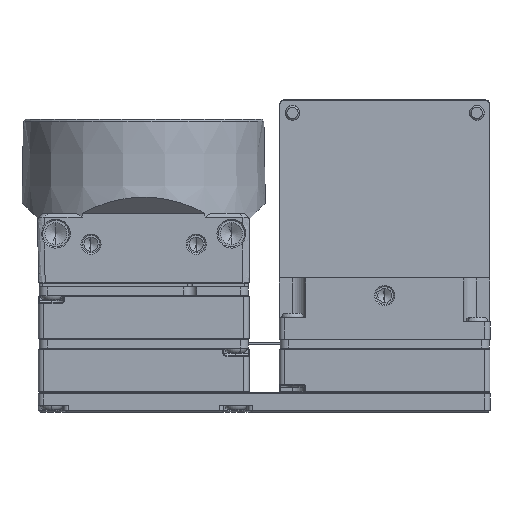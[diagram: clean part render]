
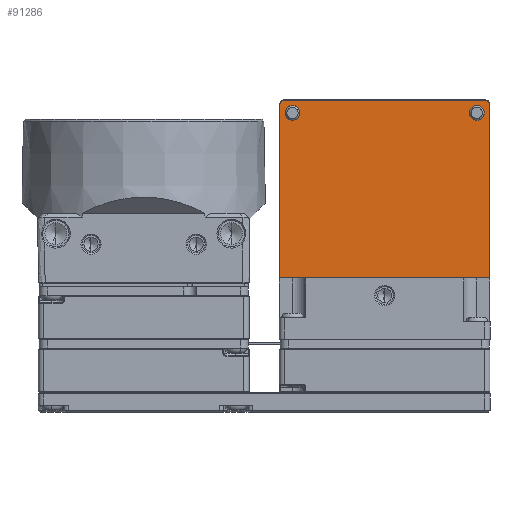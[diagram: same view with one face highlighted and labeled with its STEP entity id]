
A CAD part, front view. The second image highlights one B-rep face of the part: STEP entity #91286.
In plain terms, the highlighted planar face has unit normal (0, -1, 0).
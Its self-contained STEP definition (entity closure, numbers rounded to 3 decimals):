
#387 = CARTESIAN_POINT ( 'NONE',  ( 27.45, 6.5, -2.85 ) ) ;
#950 = DIRECTION ( 'NONE',  ( 0., 0., -1. ) ) ;
#1202 = VECTOR ( 'NONE', #5730, 1000. ) ;
#1226 = PLANE ( 'NONE',  #139584 ) ;
#2574 = CARTESIAN_POINT ( 'NONE',  ( 39.45, 6.5, -3.15 ) ) ;
#3021 = CIRCLE ( 'NONE', #32442, 0.85 ) ;
#3261 = CARTESIAN_POINT ( 'NONE',  ( 27.45, 6.5, 0.65 ) ) ;
#4676 = EDGE_CURVE ( 'NONE', #161116, #8759, #35718, .T. ) ;
#4730 = EDGE_CURVE ( 'NONE', #90554, #75104, #38734, .T. ) ;
#5730 = DIRECTION ( 'NONE',  ( 0., 0., 1. ) ) ;
#7522 = EDGE_CURVE ( 'NONE', #49840, #75104, #33430, .T. ) ;
#8759 = VERTEX_POINT ( 'NONE', #132450 ) ;
#10032 = ORIENTED_EDGE ( 'NONE', *, *, #4676, .F. ) ;
#11232 = ORIENTED_EDGE ( 'NONE', *, *, #4730, .T. ) ;
#12041 = EDGE_CURVE ( 'NONE', #49840, #57068, #54432, .T. ) ;
#14108 = EDGE_CURVE ( 'NONE', #48152, #16213, #70190, .T. ) ;
#16213 = VERTEX_POINT ( 'NONE', #102401 ) ;
#18915 = CARTESIAN_POINT ( 'NONE',  ( 16.05, 6.5, 20.25 ) ) ;
#20695 = CARTESIAN_POINT ( 'NONE',  ( 15.45, 6.5, 0.65 ) ) ;
#24830 = CARTESIAN_POINT ( 'NONE',  ( 16.95, 6.5, 20.3 ) ) ;
#27753 = LINE ( 'NONE', #2574, #94357 ) ;
#28585 = DIRECTION ( 'NONE',  ( 0., -1., 0. ) ) ;
#31705 = DIRECTION ( 'NONE',  ( 1., 0., 0. ) ) ;
#32442 = AXIS2_PLACEMENT_3D ( 'NONE', #125359, #152882, #112776 ) ;
#33430 = LINE ( 'NONE', #122157, #44150 ) ;
#33689 = CARTESIAN_POINT ( 'NONE',  ( 16.95, 6.5, 19.45 ) ) ;
#34188 = EDGE_CURVE ( 'NONE', #164046, #52259, #134174, .T. ) ;
#35718 = CIRCLE ( 'NONE', #153614, 0.85 ) ;
#36865 = DIRECTION ( 'NONE',  ( 0., -1., 0. ) ) ;
#38734 = CIRCLE ( 'NONE', #43737, 0.6 ) ;
#39210 = EDGE_CURVE ( 'NONE', #48152, #57068, #147157, .T. ) ;
#39534 = CARTESIAN_POINT ( 'NONE',  ( 37.95, 6.5, 18.6 ) ) ;
#42618 = DIRECTION ( 'NONE',  ( 0., 0., 1. ) ) ;
#43737 = AXIS2_PLACEMENT_3D ( 'NONE', #155586, #118803, #42618 ) ;
#44150 = VECTOR ( 'NONE', #68606, 1000. ) ;
#44621 = DIRECTION ( 'NONE',  ( 0., -1., 0. ) ) ;
#47789 = CARTESIAN_POINT ( 'NONE',  ( 37.95, 6.5, 19.45 ) ) ;
#48152 = VERTEX_POINT ( 'NONE', #20695 ) ;
#48995 = EDGE_CURVE ( 'NONE', #90554, #16213, #27753, .T. ) ;
#49223 = CARTESIAN_POINT ( 'NONE',  ( 16.95, 6.5, 18.6 ) ) ;
#49840 = VERTEX_POINT ( 'NONE', #165523 ) ;
#50679 = DIRECTION ( 'NONE',  ( 0., 0., 1. ) ) ;
#51798 = ORIENTED_EDGE ( 'NONE', *, *, #7522, .F. ) ;
#52259 = VERTEX_POINT ( 'NONE', #24830 ) ;
#52952 = EDGE_LOOP ( 'NONE', ( #159388, #72358 ) ) ;
#54432 = CIRCLE ( 'NONE', #75780, 0.6 ) ;
#57068 = VERTEX_POINT ( 'NONE', #160132 ) ;
#61062 = CARTESIAN_POINT ( 'NONE',  ( 38.85, 6.5, 20.85 ) ) ;
#63210 = DIRECTION ( 'NONE',  ( 0., -1., 0. ) ) ;
#64867 = FACE_BOUND ( 'NONE', #141754, .T. ) ;
#68606 = DIRECTION ( 'NONE',  ( 1., 0., 0. ) ) ;
#69367 = CARTESIAN_POINT ( 'NONE',  ( 15.45, 6.5, -3.15 ) ) ;
#70190 = LINE ( 'NONE', #3261, #98173 ) ;
#70600 = EDGE_LOOP ( 'NONE', ( #51798, #100035, #159293, #155987, #91591, #11232 ) ) ;
#72358 = ORIENTED_EDGE ( 'NONE', *, *, #88245, .F. ) ;
#75104 = VERTEX_POINT ( 'NONE', #61062 ) ;
#75780 = AXIS2_PLACEMENT_3D ( 'NONE', #18915, #95945, #146948 ) ;
#76583 = FACE_BOUND ( 'NONE', #52952, .T. ) ;
#79457 = CARTESIAN_POINT ( 'NONE',  ( 39.45, 6.5, 20.25 ) ) ;
#82747 = CIRCLE ( 'NONE', #104054, 0.85 ) ;
#88245 = EDGE_CURVE ( 'NONE', #52259, #164046, #82747, .T. ) ;
#90554 = VERTEX_POINT ( 'NONE', #79457 ) ;
#91286 = ADVANCED_FACE ( 'NONE', ( #64867, #76583, #107255 ), #1226, .T. ) ;
#91591 = ORIENTED_EDGE ( 'NONE', *, *, #48995, .F. ) ;
#94357 = VECTOR ( 'NONE', #950, 1000. ) ;
#95945 = DIRECTION ( 'NONE',  ( 0., -1., 0. ) ) ;
#98173 = VECTOR ( 'NONE', #31705, 1000. ) ;
#100035 = ORIENTED_EDGE ( 'NONE', *, *, #12041, .T. ) ;
#102401 = CARTESIAN_POINT ( 'NONE',  ( 39.45, 6.5, 0.65 ) ) ;
#104054 = AXIS2_PLACEMENT_3D ( 'NONE', #33689, #44621, #124073 ) ;
#107255 = FACE_OUTER_BOUND ( 'NONE', #70600, .T. ) ;
#112776 = DIRECTION ( 'NONE',  ( 0., 0., 1. ) ) ;
#118803 = DIRECTION ( 'NONE',  ( 0., -1., 0. ) ) ;
#122157 = CARTESIAN_POINT ( 'NONE',  ( 39.45, 6.5, 20.85 ) ) ;
#124073 = DIRECTION ( 'NONE',  ( 0., 0., 1. ) ) ;
#125359 = CARTESIAN_POINT ( 'NONE',  ( 37.95, 6.5, 19.45 ) ) ;
#127585 = ORIENTED_EDGE ( 'NONE', *, *, #156974, .F. ) ;
#128802 = AXIS2_PLACEMENT_3D ( 'NONE', #133108, #28585, #145671 ) ;
#132450 = CARTESIAN_POINT ( 'NONE',  ( 37.95, 6.5, 20.3 ) ) ;
#133108 = CARTESIAN_POINT ( 'NONE',  ( 16.95, 6.5, 19.45 ) ) ;
#134174 = CIRCLE ( 'NONE', #128802, 0.85 ) ;
#137295 = DIRECTION ( 'NONE',  ( 0., 0., 1. ) ) ;
#139584 = AXIS2_PLACEMENT_3D ( 'NONE', #387, #63210, #50679 ) ;
#141754 = EDGE_LOOP ( 'NONE', ( #10032, #127585 ) ) ;
#145671 = DIRECTION ( 'NONE',  ( 0., 0., 1. ) ) ;
#146948 = DIRECTION ( 'NONE',  ( 0., 0., 1. ) ) ;
#147157 = LINE ( 'NONE', #69367, #1202 ) ;
#152882 = DIRECTION ( 'NONE',  ( 0., -1., 0. ) ) ;
#153614 = AXIS2_PLACEMENT_3D ( 'NONE', #47789, #36865, #137295 ) ;
#155586 = CARTESIAN_POINT ( 'NONE',  ( 38.85, 6.5, 20.25 ) ) ;
#155987 = ORIENTED_EDGE ( 'NONE', *, *, #14108, .T. ) ;
#156974 = EDGE_CURVE ( 'NONE', #8759, #161116, #3021, .T. ) ;
#159293 = ORIENTED_EDGE ( 'NONE', *, *, #39210, .F. ) ;
#159388 = ORIENTED_EDGE ( 'NONE', *, *, #34188, .F. ) ;
#160132 = CARTESIAN_POINT ( 'NONE',  ( 15.45, 6.5, 20.25 ) ) ;
#161116 = VERTEX_POINT ( 'NONE', #39534 ) ;
#164046 = VERTEX_POINT ( 'NONE', #49223 ) ;
#165523 = CARTESIAN_POINT ( 'NONE',  ( 16.05, 6.5, 20.85 ) ) ;
